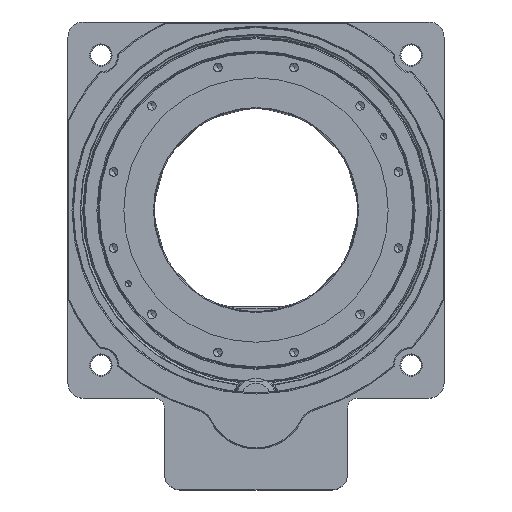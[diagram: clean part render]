
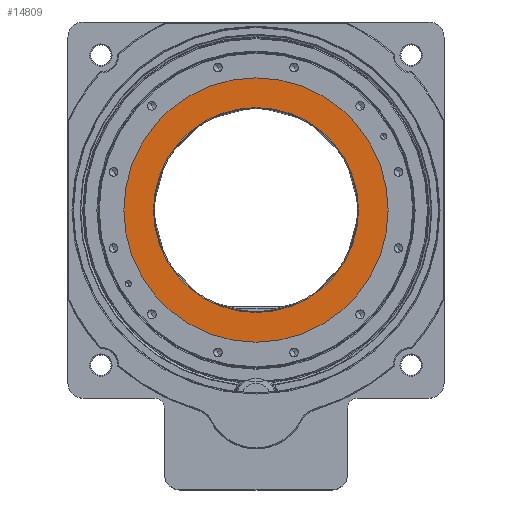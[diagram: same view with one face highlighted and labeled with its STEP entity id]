
A CAD part, top view. The second image highlights one B-rep face of the part: STEP entity #14809.
In plain terms, the highlighted planar face has unit normal (0, 0, 1) as drawn and (0, 1, 0) by its records, which use the part's own axes.
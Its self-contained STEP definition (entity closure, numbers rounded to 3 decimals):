
#169 = CARTESIAN_POINT ( 'NONE',  ( 0., 148.263, 0. ) ) ;
#874 = CIRCLE ( 'NONE', #10159, 130. ) ;
#1121 = ORIENTED_EDGE ( 'NONE', *, *, #15751, .F. ) ;
#1662 = DIRECTION ( 'NONE',  ( 0., -1., 0. ) ) ;
#1770 = DIRECTION ( 'NONE',  ( 0., 0., -1. ) ) ;
#2191 = CARTESIAN_POINT ( 'NONE',  ( 0., 148.263, 0. ) ) ;
#2577 = CARTESIAN_POINT ( 'NONE',  ( 0., 148.263, 100.8 ) ) ;
#3373 = AXIS2_PLACEMENT_3D ( 'NONE', #15689, #25026, #1770 ) ;
#3384 = DIRECTION ( 'NONE',  ( 0., -1., 0. ) ) ;
#4582 = AXIS2_PLACEMENT_3D ( 'NONE', #169, #15930, #25267 ) ;
#4599 = VERTEX_POINT ( 'NONE', #10650 ) ;
#5927 = EDGE_CURVE ( 'NONE', #23630, #19500, #29753, .T. ) ;
#7641 = ORIENTED_EDGE ( 'NONE', *, *, #5927, .T. ) ;
#8368 = CIRCLE ( 'NONE', #15248, 130. ) ;
#10159 = AXIS2_PLACEMENT_3D ( 'NONE', #2191, #1662, #18378 ) ;
#10650 = CARTESIAN_POINT ( 'NONE',  ( 0., 148.263, -130. ) ) ;
#12715 = PLANE ( 'NONE',  #18584 ) ;
#13368 = CIRCLE ( 'NONE', #4582, 100.8 ) ;
#14809 = ADVANCED_FACE ( 'NONE', ( #14995, #17580 ), #12715, .F. ) ;
#14995 = FACE_OUTER_BOUND ( 'NONE', #29872, .T. ) ;
#15139 = VERTEX_POINT ( 'NONE', #18586 ) ;
#15248 = AXIS2_PLACEMENT_3D ( 'NONE', #20325, #25084, #18023 ) ;
#15689 = CARTESIAN_POINT ( 'NONE',  ( 0., 148.263, 0. ) ) ;
#15751 = EDGE_CURVE ( 'NONE', #15139, #4599, #8368, .T. ) ;
#15930 = DIRECTION ( 'NONE',  ( 0., -1., 0. ) ) ;
#17580 = FACE_BOUND ( 'NONE', #29499, .T. ) ;
#18023 = DIRECTION ( 'NONE',  ( 0., 0., -1. ) ) ;
#18378 = DIRECTION ( 'NONE',  ( 0., 0., -1. ) ) ;
#18389 = EDGE_CURVE ( 'NONE', #19500, #23630, #13368, .T. ) ;
#18584 = AXIS2_PLACEMENT_3D ( 'NONE', #22329, #3384, #28781 ) ;
#18586 = CARTESIAN_POINT ( 'NONE',  ( 0., 148.263, 130. ) ) ;
#18789 = ORIENTED_EDGE ( 'NONE', *, *, #19829, .F. ) ;
#19500 = VERTEX_POINT ( 'NONE', #2577 ) ;
#19829 = EDGE_CURVE ( 'NONE', #4599, #15139, #874, .T. ) ;
#20325 = CARTESIAN_POINT ( 'NONE',  ( 0., 148.263, 0. ) ) ;
#22329 = CARTESIAN_POINT ( 'NONE',  ( -130., 148.263, 0. ) ) ;
#23630 = VERTEX_POINT ( 'NONE', #29895 ) ;
#25026 = DIRECTION ( 'NONE',  ( 0., -1., 0. ) ) ;
#25084 = DIRECTION ( 'NONE',  ( 0., -1., 0. ) ) ;
#25267 = DIRECTION ( 'NONE',  ( 0., 0., -1. ) ) ;
#26125 = ORIENTED_EDGE ( 'NONE', *, *, #18389, .T. ) ;
#28781 = DIRECTION ( 'NONE',  ( 0., 0., -1. ) ) ;
#29499 = EDGE_LOOP ( 'NONE', ( #7641, #26125 ) ) ;
#29753 = CIRCLE ( 'NONE', #3373, 100.8 ) ;
#29872 = EDGE_LOOP ( 'NONE', ( #18789, #1121 ) ) ;
#29895 = CARTESIAN_POINT ( 'NONE',  ( 0., 148.263, -100.8 ) ) ;
